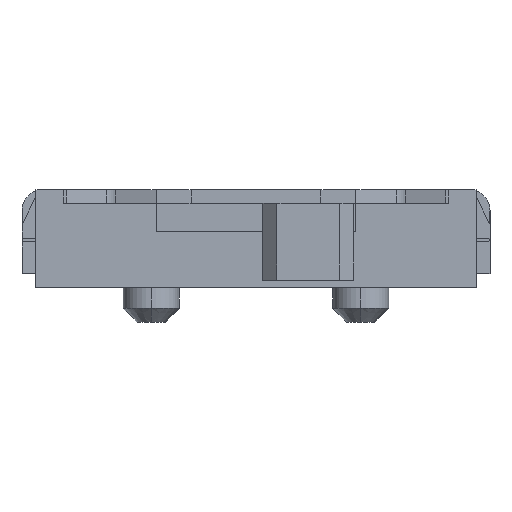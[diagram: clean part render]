
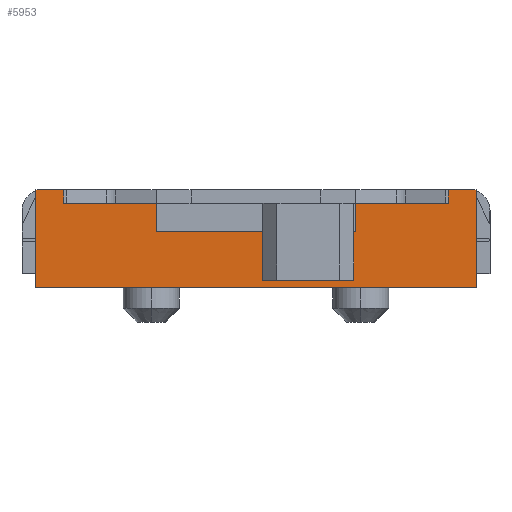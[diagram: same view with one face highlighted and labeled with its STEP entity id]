
A CAD part, top view. The second image highlights one B-rep face of the part: STEP entity #5953.
In plain terms, the highlighted planar face has unit normal (0, 0, 1).
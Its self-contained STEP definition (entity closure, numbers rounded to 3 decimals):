
#28 = VERTEX_POINT ( 'NONE', #2984 ) ;
#82 = CARTESIAN_POINT ( 'NONE',  ( 3.15, 0.2, 1.3 ) ) ;
#148 = EDGE_CURVE ( 'NONE', #4707, #2017, #3499, .T. ) ;
#186 = CARTESIAN_POINT ( 'NONE',  ( -3.15, 1.4, 1.3 ) ) ;
#270 = ORIENTED_EDGE ( 'NONE', *, *, #4594, .T. ) ;
#337 = CARTESIAN_POINT ( 'NONE',  ( 0.1, 0.8, 1.3 ) ) ;
#391 = ORIENTED_EDGE ( 'NONE', *, *, #5921, .F. ) ;
#419 = CARTESIAN_POINT ( 'NONE',  ( -3.15, 0., 1.3 ) ) ;
#474 = VECTOR ( 'NONE', #3585, 1000. ) ;
#605 = CARTESIAN_POINT ( 'NONE',  ( -3.85, 1.2, 1.3 ) ) ;
#681 = DIRECTION ( 'NONE',  ( 1., 0., 0. ) ) ;
#699 = DIRECTION ( 'NONE',  ( 0., -1., 0. ) ) ;
#707 = CARTESIAN_POINT ( 'NONE',  ( -3.85, 1.2, 1.3 ) ) ;
#708 = CARTESIAN_POINT ( 'NONE',  ( -3.85, 0.8, 1.3 ) ) ;
#741 = CARTESIAN_POINT ( 'NONE',  ( 2.75, 1.4, 1.3 ) ) ;
#763 = DIRECTION ( 'NONE',  ( 0., -1., 0. ) ) ;
#774 = LINE ( 'NONE', #6554, #7105 ) ;
#887 = FACE_OUTER_BOUND ( 'NONE', #3712, .T. ) ;
#1062 = AXIS2_PLACEMENT_3D ( 'NONE', #7397, #7368, #2816 ) ;
#1089 = ORIENTED_EDGE ( 'NONE', *, *, #2096, .F. ) ;
#1150 = DIRECTION ( 'NONE',  ( -1., 0., 0. ) ) ;
#1287 = EDGE_CURVE ( 'NONE', #2638, #1308, #5768, .T. ) ;
#1308 = VERTEX_POINT ( 'NONE', #5108 ) ;
#1360 = VERTEX_POINT ( 'NONE', #3019 ) ;
#1374 = LINE ( 'NONE', #741, #2314 ) ;
#1541 = VERTEX_POINT ( 'NONE', #3760 ) ;
#1595 = VERTEX_POINT ( 'NONE', #4843 ) ;
#1661 = CARTESIAN_POINT ( 'NONE',  ( 2.75, 1.4, 1.3 ) ) ;
#1728 = VECTOR ( 'NONE', #2127, 1000. ) ;
#1787 = VERTEX_POINT ( 'NONE', #5731 ) ;
#1956 = LINE ( 'NONE', #7099, #5714 ) ;
#1977 = DIRECTION ( 'NONE',  ( 1., 0., 0. ) ) ;
#1994 = VECTOR ( 'NONE', #2214, 1000. ) ;
#2006 = DIRECTION ( 'NONE',  ( 0., 1., 0. ) ) ;
#2017 = VERTEX_POINT ( 'NONE', #2979 ) ;
#2033 = ORIENTED_EDGE ( 'NONE', *, *, #4145, .T. ) ;
#2041 = LINE ( 'NONE', #6065, #3205 ) ;
#2087 = EDGE_CURVE ( 'NONE', #28, #1541, #2041, .T. ) ;
#2096 = EDGE_CURVE ( 'NONE', #1541, #1595, #774, .T. ) ;
#2127 = DIRECTION ( 'NONE',  ( 0., -1., 0. ) ) ;
#2136 = LINE ( 'NONE', #1661, #1994 ) ;
#2153 = PLANE ( 'NONE',  #1062 ) ;
#2179 = VECTOR ( 'NONE', #699, 1000. ) ;
#2180 = VERTEX_POINT ( 'NONE', #5099 ) ;
#2214 = DIRECTION ( 'NONE',  ( -1., 0., 0. ) ) ;
#2269 = VECTOR ( 'NONE', #1150, 1000. ) ;
#2314 = VECTOR ( 'NONE', #4842, 1000. ) ;
#2381 = VECTOR ( 'NONE', #1977, 1000. ) ;
#2474 = CARTESIAN_POINT ( 'NONE',  ( 2.75, 1.2, 1.3 ) ) ;
#2510 = CARTESIAN_POINT ( 'NONE',  ( -1.43, 0.8, 1.3 ) ) ;
#2555 = LINE ( 'NONE', #7146, #4442 ) ;
#2638 = VERTEX_POINT ( 'NONE', #6508 ) ;
#2715 = LINE ( 'NONE', #5048, #1728 ) ;
#2795 = VECTOR ( 'NONE', #681, 1000. ) ;
#2816 = DIRECTION ( 'NONE',  ( 0., 1., 0. ) ) ;
#2831 = VERTEX_POINT ( 'NONE', #6931 ) ;
#2899 = ORIENTED_EDGE ( 'NONE', *, *, #4343, .T. ) ;
#2979 = CARTESIAN_POINT ( 'NONE',  ( 1.4, 0.8, 1.3 ) ) ;
#2984 = CARTESIAN_POINT ( 'NONE',  ( 1.43, 0.8, 1.3 ) ) ;
#2999 = LINE ( 'NONE', #82, #4971 ) ;
#3019 = CARTESIAN_POINT ( 'NONE',  ( 2.75, 1.4, 1.3 ) ) ;
#3022 = EDGE_CURVE ( 'NONE', #4707, #7144, #2555, .T. ) ;
#3064 = VECTOR ( 'NONE', #3484, 1000. ) ;
#3184 = EDGE_CURVE ( 'NONE', #1308, #1787, #5349, .T. ) ;
#3205 = VECTOR ( 'NONE', #2006, 1000. ) ;
#3446 = CARTESIAN_POINT ( 'NONE',  ( -3.85, 0.8, 1.3 ) ) ;
#3484 = DIRECTION ( 'NONE',  ( 1., 0., 0. ) ) ;
#3499 = LINE ( 'NONE', #708, #474 ) ;
#3585 = DIRECTION ( 'NONE',  ( 1., 0., 0. ) ) ;
#3591 = ORIENTED_EDGE ( 'NONE', *, *, #4102, .F. ) ;
#3609 = LINE ( 'NONE', #3446, #3064 ) ;
#3634 = CARTESIAN_POINT ( 'NONE',  ( 3.15, 0., 1.3 ) ) ;
#3644 = VERTEX_POINT ( 'NONE', #419 ) ;
#3692 = DIRECTION ( 'NONE',  ( 1., 0., 0. ) ) ;
#3712 = EDGE_LOOP ( 'NONE', ( #4607, #5239, #5627, #6078, #6042, #4992, #6520, #3591, #2033, #270, #391, #3736, #2899, #6583, #4626, #1089 ) ) ;
#3736 = ORIENTED_EDGE ( 'NONE', *, *, #5637, .T. ) ;
#3751 = LINE ( 'NONE', #4200, #2179 ) ;
#3760 = CARTESIAN_POINT ( 'NONE',  ( 1.43, 1.2, 1.3 ) ) ;
#3965 = VECTOR ( 'NONE', #6163, 1000. ) ;
#4102 = EDGE_CURVE ( 'NONE', #2831, #2638, #2715, .T. ) ;
#4145 = EDGE_CURVE ( 'NONE', #2831, #7390, #6749, .T. ) ;
#4200 = CARTESIAN_POINT ( 'NONE',  ( -1.43, 1.4, 1.3 ) ) ;
#4343 = EDGE_CURVE ( 'NONE', #2180, #1360, #2136, .T. ) ;
#4383 = DIRECTION ( 'NONE',  ( 0., 1., 0. ) ) ;
#4442 = VECTOR ( 'NONE', #6647, 1000. ) ;
#4594 = EDGE_CURVE ( 'NONE', #7390, #3644, #1956, .T. ) ;
#4607 = ORIENTED_EDGE ( 'NONE', *, *, #2087, .F. ) ;
#4626 = ORIENTED_EDGE ( 'NONE', *, *, #7362, .F. ) ;
#4707 = VERTEX_POINT ( 'NONE', #337 ) ;
#4785 = CARTESIAN_POINT ( 'NONE',  ( -3.85, 0., 1.3 ) ) ;
#4842 = DIRECTION ( 'NONE',  ( 0., 1., 0. ) ) ;
#4843 = CARTESIAN_POINT ( 'NONE',  ( 2.72, 1.2, 1.3 ) ) ;
#4971 = VECTOR ( 'NONE', #4383, 1000. ) ;
#4992 = ORIENTED_EDGE ( 'NONE', *, *, #3184, .F. ) ;
#5017 = CARTESIAN_POINT ( 'NONE',  ( -3.15, 1.4, 1.3 ) ) ;
#5048 = CARTESIAN_POINT ( 'NONE',  ( -2.75, 1.4, 1.3 ) ) ;
#5099 = CARTESIAN_POINT ( 'NONE',  ( 3.15, 1.4, 1.3 ) ) ;
#5108 = CARTESIAN_POINT ( 'NONE',  ( -2.72, 1.2, 1.3 ) ) ;
#5239 = ORIENTED_EDGE ( 'NONE', *, *, #6028, .F. ) ;
#5349 = LINE ( 'NONE', #707, #2381 ) ;
#5357 = LINE ( 'NONE', #605, #2795 ) ;
#5627 = ORIENTED_EDGE ( 'NONE', *, *, #148, .F. ) ;
#5637 = EDGE_CURVE ( 'NONE', #6415, #2180, #2999, .T. ) ;
#5714 = VECTOR ( 'NONE', #763, 1000. ) ;
#5731 = CARTESIAN_POINT ( 'NONE',  ( -1.43, 1.2, 1.3 ) ) ;
#5732 = CARTESIAN_POINT ( 'NONE',  ( -3.85, 1.2, 1.3 ) ) ;
#5768 = LINE ( 'NONE', #5732, #7441 ) ;
#5921 = EDGE_CURVE ( 'NONE', #6415, #3644, #6010, .T. ) ;
#5953 = ADVANCED_FACE ( 'NONE', ( #887 ), #2153, .F. ) ;
#6010 = LINE ( 'NONE', #4785, #2269 ) ;
#6028 = EDGE_CURVE ( 'NONE', #2017, #28, #3609, .T. ) ;
#6042 = ORIENTED_EDGE ( 'NONE', *, *, #6195, .F. ) ;
#6065 = CARTESIAN_POINT ( 'NONE',  ( 1.43, 1.4, 1.3 ) ) ;
#6078 = ORIENTED_EDGE ( 'NONE', *, *, #3022, .T. ) ;
#6163 = DIRECTION ( 'NONE',  ( -1., 0., 0. ) ) ;
#6195 = EDGE_CURVE ( 'NONE', #1787, #7144, #3751, .T. ) ;
#6415 = VERTEX_POINT ( 'NONE', #3634 ) ;
#6508 = CARTESIAN_POINT ( 'NONE',  ( -2.75, 1.2, 1.3 ) ) ;
#6520 = ORIENTED_EDGE ( 'NONE', *, *, #1287, .F. ) ;
#6554 = CARTESIAN_POINT ( 'NONE',  ( -3.85, 1.2, 1.3 ) ) ;
#6583 = ORIENTED_EDGE ( 'NONE', *, *, #6759, .F. ) ;
#6647 = DIRECTION ( 'NONE',  ( -1., 0., 0. ) ) ;
#6749 = LINE ( 'NONE', #5017, #3965 ) ;
#6759 = EDGE_CURVE ( 'NONE', #7040, #1360, #1374, .T. ) ;
#6931 = CARTESIAN_POINT ( 'NONE',  ( -2.75, 1.4, 1.3 ) ) ;
#7040 = VERTEX_POINT ( 'NONE', #2474 ) ;
#7099 = CARTESIAN_POINT ( 'NONE',  ( -3.15, 0.2, 1.3 ) ) ;
#7105 = VECTOR ( 'NONE', #3692, 1000. ) ;
#7144 = VERTEX_POINT ( 'NONE', #2510 ) ;
#7146 = CARTESIAN_POINT ( 'NONE',  ( -1.43, 0.8, 1.3 ) ) ;
#7362 = EDGE_CURVE ( 'NONE', #1595, #7040, #5357, .T. ) ;
#7368 = DIRECTION ( 'NONE',  ( 0., 0., -1. ) ) ;
#7390 = VERTEX_POINT ( 'NONE', #186 ) ;
#7397 = CARTESIAN_POINT ( 'NONE',  ( -3.85, 1.4, 1.3 ) ) ;
#7441 = VECTOR ( 'NONE', #7480, 1000. ) ;
#7480 = DIRECTION ( 'NONE',  ( 1., 0., 0. ) ) ;
